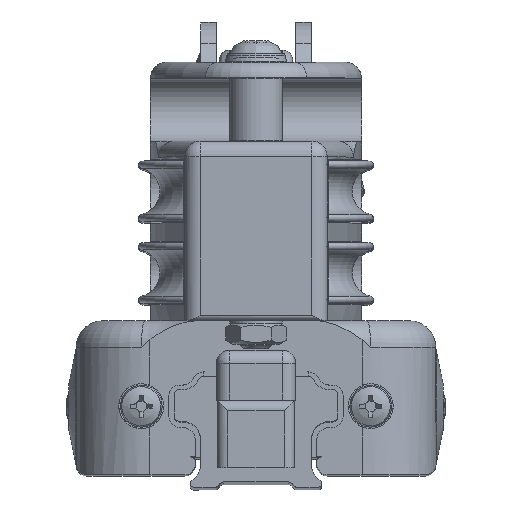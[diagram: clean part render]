
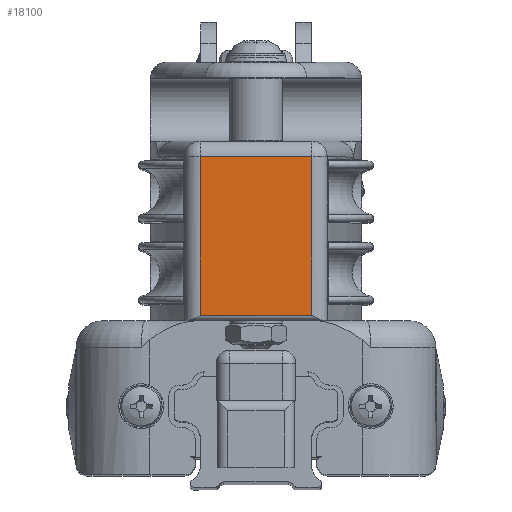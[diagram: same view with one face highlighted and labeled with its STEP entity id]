
A CAD part, top view. The second image highlights one B-rep face of the part: STEP entity #18100.
In plain terms, the highlighted planar face has unit normal (0, 0, 1).
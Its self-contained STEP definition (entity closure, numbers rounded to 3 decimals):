
#1673=LINE('',#33346,#2813);
#1830=LINE('',#34465,#2970);
#1831=LINE('',#34467,#2971);
#1832=LINE('',#34468,#2972);
#2813=VECTOR('',#24599,10.);
#2970=VECTOR('',#25232,10.);
#2971=VECTOR('',#25233,10.);
#2972=VECTOR('',#25234,10.);
#4369=FACE_OUTER_BOUND('',#5454,.T.);
#5454=EDGE_LOOP('',(#15828,#15829,#15830,#15831));
#8104=VERTEX_POINT('',#33342);
#8105=VERTEX_POINT('',#33344);
#8316=VERTEX_POINT('',#34464);
#8317=VERTEX_POINT('',#34466);
#10592=EDGE_CURVE('',#8104,#8105,#1673,.T.);
#10934=EDGE_CURVE('',#8316,#8105,#1830,.T.);
#10935=EDGE_CURVE('',#8316,#8317,#1831,.T.);
#10936=EDGE_CURVE('',#8317,#8104,#1832,.T.);
#15828=ORIENTED_EDGE('',*,*,#10592,.T.);
#15829=ORIENTED_EDGE('',*,*,#10934,.F.);
#15830=ORIENTED_EDGE('',*,*,#10935,.T.);
#15831=ORIENTED_EDGE('',*,*,#10936,.T.);
#17180=PLANE('',#20187);
#18100=ADVANCED_FACE('',(#4369),#17180,.T.);
#20187=AXIS2_PLACEMENT_3D('',#34463,#25230,#25231);
#24599=DIRECTION('',(-1.,0.,0.));
#25230=DIRECTION('center_axis',(0.,0.,
1.));
#25231=DIRECTION('ref_axis',(0.,1.,0.));
#25232=DIRECTION('',(0.,1.,0.));
#25233=DIRECTION('',(1.,0.,0.));
#25234=DIRECTION('',(0.,1.,0.));
#33342=CARTESIAN_POINT('',(10.6,62.7,110.));
#33344=CARTESIAN_POINT('',(-10.6,62.7,110.));
#33346=CARTESIAN_POINT('',(-10.6,62.7,110.));
#34463=CARTESIAN_POINT('Origin',(0.,32.7,
110.));
#34464=CARTESIAN_POINT('',(-10.6,32.7,110.));
#34465=CARTESIAN_POINT('',(-10.6,31.7,110.));
#34466=CARTESIAN_POINT('',(10.6,32.7,110.));
#34467=CARTESIAN_POINT('',(0.,32.7,110.));
#34468=CARTESIAN_POINT('',(10.6,31.7,110.));
